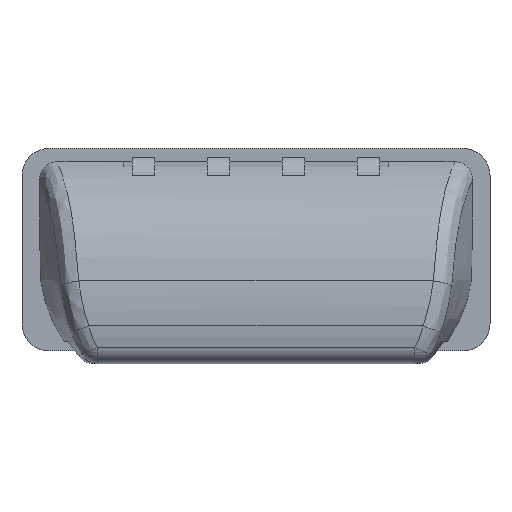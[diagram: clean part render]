
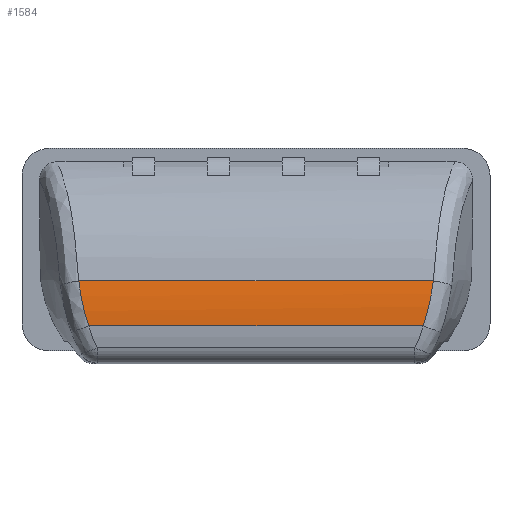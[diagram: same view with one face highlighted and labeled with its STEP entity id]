
A CAD part, top view. The second image highlights one B-rep face of the part: STEP entity #1584.
In plain terms, the highlighted free-form (B-spline) face has degree [3, 1] with [4, 2] control points.
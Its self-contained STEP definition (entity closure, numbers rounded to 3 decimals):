
#109 = CARTESIAN_POINT ( 'NONE',  ( -24.737, -13.658, 20.388 ) ) ;
#349 = CARTESIAN_POINT ( 'NONE',  ( -25.434, -8.758, 19.931 ) ) ;
#929 = B_SPLINE_CURVE_WITH_KNOTS ( 'NONE', 3,
 ( #5461, #2636, #1225, #4998, #349, #2700 ),
 .UNSPECIFIED., .F., .F.,
 ( 4, 2, 4 ),
 ( 0., 0.5, 1. ),
 .UNSPECIFIED. ) ;
#943 = CARTESIAN_POINT ( 'NONE',  ( -101.789, -17., 20.227 ) ) ;
#1065 = VERTEX_POINT ( 'NONE', #1451 ) ;
#1115 = EDGE_CURVE ( 'NONE', #4132, #4203, #2461, .T. ) ;
#1225 = CARTESIAN_POINT ( 'NONE',  ( -26.473, -13.812, 20.295 ) ) ;
#1399 = CARTESIAN_POINT ( 'NONE',  ( -24.737, -17., 20.227 ) ) ;
#1413 = CARTESIAN_POINT ( 'NONE',  ( -101.789, -17., 20.227 ) ) ;
#1428 = CARTESIAN_POINT ( 'NONE',  ( -104.487, -17., 20.227 ) ) ;
#1449 = EDGE_LOOP ( 'NONE', ( #2633, #1912, #4507, #5600 ) ) ;
#1451 = CARTESIAN_POINT ( 'NONE',  ( -25.21, -7., 19.67 ) ) ;
#1578 = CARTESIAN_POINT ( 'NONE',  ( -112.612, -17., 20.227 ) ) ;
#1584 = ADVANCED_FACE ( 'NONE', ( #2758 ), #3804, .T. ) ;
#1666 = DIRECTION ( 'NONE',  ( 1., 0., 0. ) ) ;
#1898 = CARTESIAN_POINT ( 'NONE',  ( -104.014, -7., 19.67 ) ) ;
#1912 = ORIENTED_EDGE ( 'NONE', *, *, #5489, .T. ) ;
#2300 = CARTESIAN_POINT ( 'NONE',  ( -104.487, -10.311, 20.162 ) ) ;
#2386 = VECTOR ( 'NONE', #4325, 1000. ) ;
#2461 = B_SPLINE_CURVE_WITH_KNOTS ( 'NONE', 3,
 ( #1413, #3266, #3750, #1898 ),
 .UNSPECIFIED., .F., .F.,
 ( 4, 4 ),
 ( 0., 1. ),
 .UNSPECIFIED. ) ;
#2633 = ORIENTED_EDGE ( 'NONE', *, *, #5973, .T. ) ;
#2636 = CARTESIAN_POINT ( 'NONE',  ( -26.917, -15.433, 20.302 ) ) ;
#2700 = CARTESIAN_POINT ( 'NONE',  ( -25.21, -7., 19.67 ) ) ;
#2754 = VECTOR ( 'NONE', #1666, 1000. ) ;
#2758 = FACE_OUTER_BOUND ( 'NONE', #1449, .T. ) ;
#2975 = LINE ( 'NONE', #1578, #2754 ) ;
#3266 = CARTESIAN_POINT ( 'NONE',  ( -102.877, -13.711, 20.385 ) ) ;
#3701 = CARTESIAN_POINT ( 'NONE',  ( -24.737, -7., 19.67 ) ) ;
#3750 = CARTESIAN_POINT ( 'NONE',  ( -103.591, -10.328, 20.165 ) ) ;
#3804 = B_SPLINE_SURFACE_WITH_KNOTS ( 'NONE', 3, 1, ( 
 ( #4613, #3701 ),
 ( #2300, #5578 ),
 ( #4172, #109 ),
 ( #1428, #1399 ) ),
 .UNSPECIFIED., .F., .F., .F.,
 ( 4, 4 ),
 ( 2, 2 ),
 ( 0., 1. ),
 ( 0., 1. ),
 .UNSPECIFIED. ) ;
#3956 = LINE ( 'NONE', #5696, #2386 ) ;
#4132 = VERTEX_POINT ( 'NONE', #943 ) ;
#4172 = CARTESIAN_POINT ( 'NONE',  ( -104.487, -13.658, 20.388 ) ) ;
#4203 = VERTEX_POINT ( 'NONE', #5720 ) ;
#4325 = DIRECTION ( 'NONE',  ( 1., 0., 0. ) ) ;
#4351 = VERTEX_POINT ( 'NONE', #4672 ) ;
#4507 = ORIENTED_EDGE ( 'NONE', *, *, #5622, .F. ) ;
#4613 = CARTESIAN_POINT ( 'NONE',  ( -104.487, -7., 19.67 ) ) ;
#4672 = CARTESIAN_POINT ( 'NONE',  ( -27.435, -17., 20.227 ) ) ;
#4998 = CARTESIAN_POINT ( 'NONE',  ( -25.731, -10.475, 20.109 ) ) ;
#5461 = CARTESIAN_POINT ( 'NONE',  ( -27.435, -17., 20.227 ) ) ;
#5489 = EDGE_CURVE ( 'NONE', #4351, #1065, #929, .T. ) ;
#5578 = CARTESIAN_POINT ( 'NONE',  ( -24.737, -10.311, 20.162 ) ) ;
#5600 = ORIENTED_EDGE ( 'NONE', *, *, #1115, .F. ) ;
#5622 = EDGE_CURVE ( 'NONE', #4203, #1065, #3956, .T. ) ;
#5696 = CARTESIAN_POINT ( 'NONE',  ( -112.612, -7., 19.67 ) ) ;
#5720 = CARTESIAN_POINT ( 'NONE',  ( -104.014, -7., 19.67 ) ) ;
#5973 = EDGE_CURVE ( 'NONE', #4132, #4351, #2975, .T. ) ;
